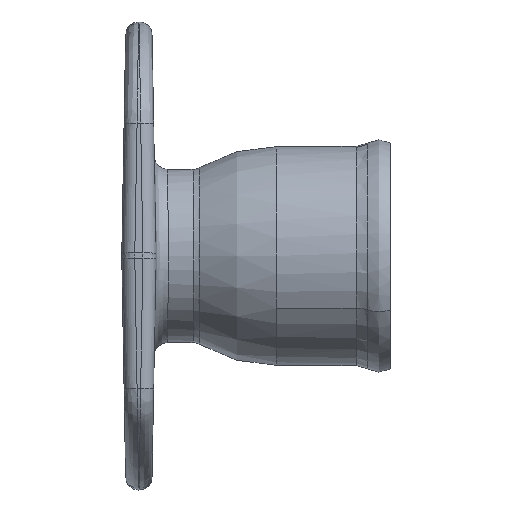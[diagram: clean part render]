
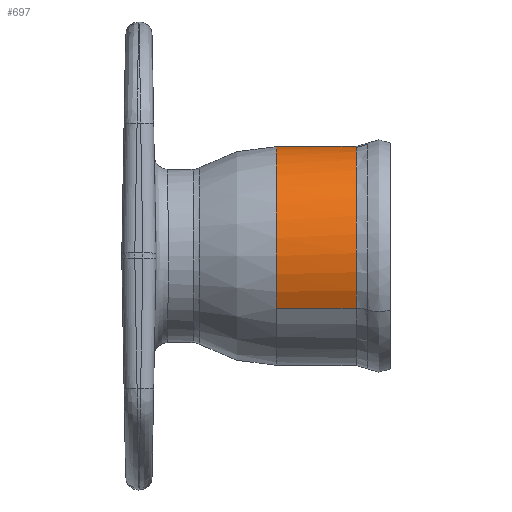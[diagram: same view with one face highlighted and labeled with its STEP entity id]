
A CAD part, top view. The second image highlights one B-rep face of the part: STEP entity #697.
In plain terms, the highlighted free-form (B-spline) face has degree [1, 2] with [2, 5] control points.
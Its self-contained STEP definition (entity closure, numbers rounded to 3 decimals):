
#697=ADVANCED_FACE('',(#1999),#2000,.T.);
#1159=VERTEX_POINT('',#2587);
#1161=VERTEX_POINT('',#2589);
#1163=EDGE_CURVE('',#1159,#1161,#2591,.T.);
#1165=VERTEX_POINT('',#2593);
#1167=EDGE_CURVE('',#1165,#1159,#2595,.T.);
#1169=VERTEX_POINT('',#2597);
#1171=EDGE_CURVE('',#1165,#1169,#2599,.T.);
#1173=VERTEX_POINT('',#2601);
#1175=EDGE_CURVE('',#1173,#1169,#2603,.T.);
#1177=EDGE_CURVE('',#1173,#1161,#2605,.T.);
#1999=FACE_OUTER_BOUND('',#3768,.T.);
#2000=(B_SPLINE_SURFACE(1,2,((#3770,#3771,#3772,#3773,#3774),(#3775,#3776,#3777,#3778,#3779)),.UNSPECIFIED.,.F.,.F.,.F.)B_SPLINE_SURFACE_WITH_KNOTS((2,2),(3,2,3),(0.0,1.0),(0.0,0.488,1.0),.UNSPECIFIED.)RATIONAL_B_SPLINE_SURFACE(((0.973,0.703,1.0,0.689,1.0),(0.973,0.703,1.0,0.689,1.0)))BOUNDED_SURFACE()REPRESENTATION_ITEM('')GEOMETRIC_REPRESENTATION_ITEM()SURFACE());
#2587=CARTESIAN_POINT('',(16.066,-6.065,11.101));
#2589=CARTESIAN_POINT('',(6.875,-6.065,11.101));
#2591=LINE('',#7398,#7399);
#2593=CARTESIAN_POINT('',(16.066,6.065,-11.101));
#2595=CIRCLE('',#7404,12.65);
#2597=CARTESIAN_POINT('',(8.916,6.065,-11.101));
#2599=LINE('',#7409,#7410);
#2601=CARTESIAN_POINT('',(6.875,7.697,-10.039));
#2603=B_SPLINE_CURVE_WITH_KNOTS('',4,(#7415,#7416,#7417,#7418,#7419),.UNSPECIFIED.,.F.,.F.,(5,5),(0.0,1.0),.UNSPECIFIED.);
#2605=CIRCLE('',#7422,12.65);
#3768=EDGE_LOOP('',(#9567,#9568,#9569,#9570,#9571));
#3770=CARTESIAN_POINT('',(16.066,5.643,-11.321));
#3771=CARTESIAN_POINT('',(16.066,16.804,-5.758));
#3772=CARTESIAN_POINT('',(16.066,11.401,5.48));
#3773=CARTESIAN_POINT('',(16.066,5.629,17.489));
#3774=CARTESIAN_POINT('',(16.066,-6.065,11.101));
#3775=CARTESIAN_POINT('',(6.875,5.643,-11.321));
#3776=CARTESIAN_POINT('',(6.875,16.804,-5.758));
#3777=CARTESIAN_POINT('',(6.875,11.401,5.48));
#3778=CARTESIAN_POINT('',(6.875,5.629,17.489));
#3779=CARTESIAN_POINT('',(6.875,-6.065,11.101));
#7398=CARTESIAN_POINT('',(16.066,-6.065,11.101));
#7399=VECTOR('',#10257,1.0);
#7404=AXIS2_PLACEMENT_3D('',#10258,#10259,#10260);
#7409=CARTESIAN_POINT('',(16.066,6.065,-11.101));
#7410=VECTOR('',#10261,1.0);
#7415=CARTESIAN_POINT('',(6.875,7.697,-10.039));
#7416=CARTESIAN_POINT('',(7.435,7.349,-10.306));
#7417=CARTESIAN_POINT('',(7.964,6.961,-10.578));
#7418=CARTESIAN_POINT('',(8.459,6.533,-10.846));
#7419=CARTESIAN_POINT('',(8.916,6.065,-11.101));
#7422=AXIS2_PLACEMENT_3D('',#10262,#10263,#10264);
#9567=ORIENTED_EDGE('',*,*,#1163,.F.);
#9568=ORIENTED_EDGE('',*,*,#1167,.F.);
#9569=ORIENTED_EDGE('',*,*,#1171,.T.);
#9570=ORIENTED_EDGE('',*,*,#1175,.F.);
#9571=ORIENTED_EDGE('',*,*,#1177,.T.);
#10257=DIRECTION('',(-1.0,0.,0.0));
#10258=CARTESIAN_POINT('',(16.066,0.,0.));
#10259=DIRECTION('',(1.0,0.,0.));
#10260=DIRECTION('',(0.,0.479,-0.878));
#10261=DIRECTION('',(-1.0,0.,0.0));
#10262=CARTESIAN_POINT('',(6.875,0.,0.));
#10263=DIRECTION('',(1.0,0.,0.));
#10264=DIRECTION('',(0.,0.608,-0.794));
